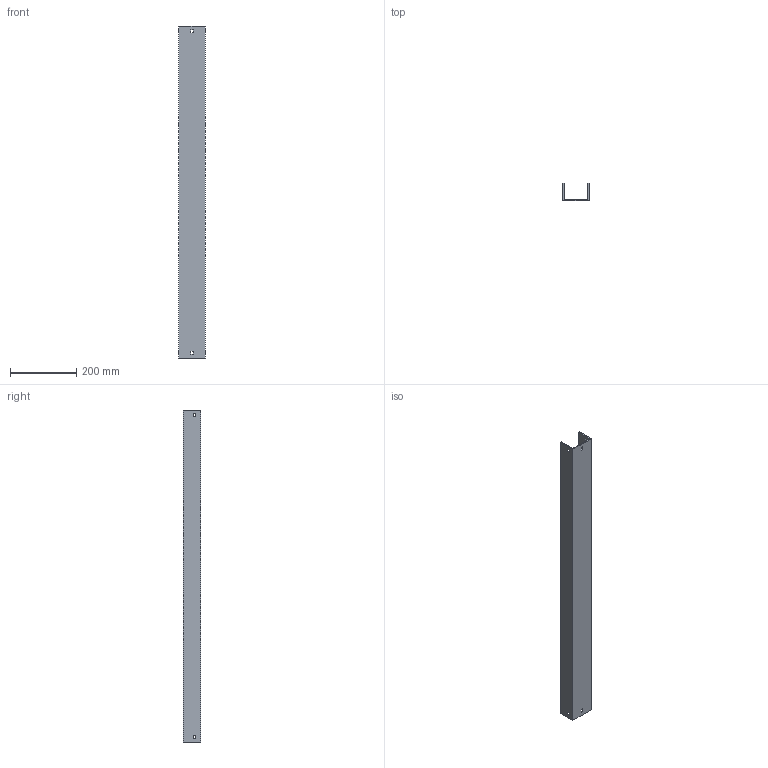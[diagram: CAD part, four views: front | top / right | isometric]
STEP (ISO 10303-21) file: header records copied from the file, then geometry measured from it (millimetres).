
FILE_DESCRIPTION (( 'STEP AP214' ), '1' );
FILE_NAME ('03F1B075.step', '2025-02-21T13:22:54', ( '' ), ( '' ), 'SwSTEP 2.0', 'SolidWorks 2023', '' );
FILE_SCHEMA (( 'AUTOMOTIVE_DESIGN' ));
Length unit declared in the file: millimetre
Products named in the file (1): 03F1B075
Bounding box: 79 x 52 x 1000 mm (x, y, z)
Volume: 614610.5 mm3; surface area: 360131 mm2
Topology: 1 solids, 1 shells, 34 faces, 96 edges, 64 vertices
Faces by surface type: plane 34
Entity records: 1127 total; most frequent: CARTESIAN_POINT 195, ORIENTED_EDGE 192, DIRECTION 166, LINE 96, VECTOR 96, EDGE_CURVE 96, VERTEX_POINT 64, EDGE_LOOP 46
